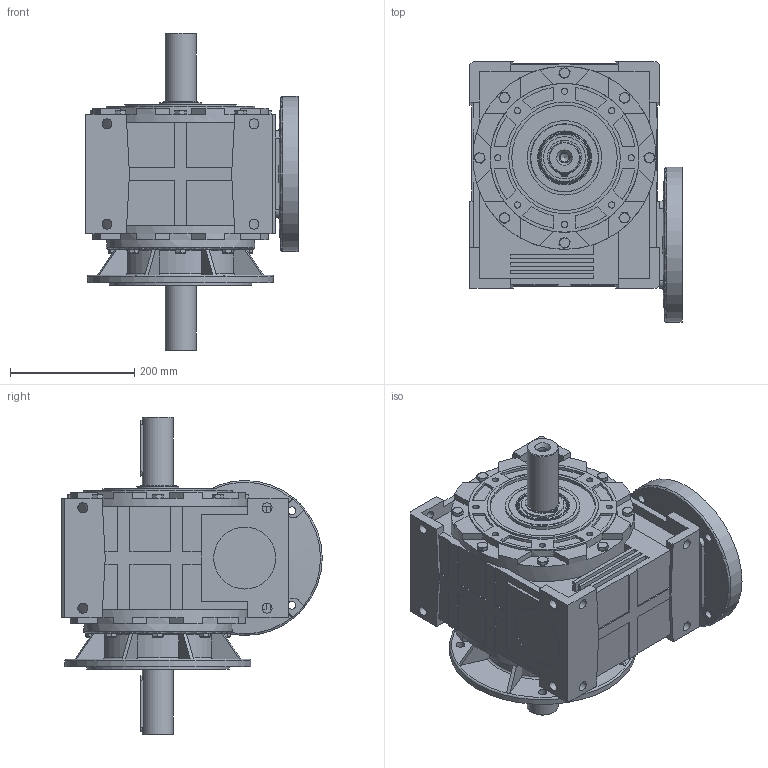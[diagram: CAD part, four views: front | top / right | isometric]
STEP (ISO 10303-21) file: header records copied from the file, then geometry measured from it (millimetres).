
FILE_DESCRIPTION (( 'STEP AP203' ), '1' );
FILE_NAME ('MR-140_100-112B5_K300_1_WD_1_3D.STEP', '2018-11-13T11:57:40', ( 'Biuro' ), ( 'Microsoft' ), 'SwSTEP 2.0', 'SolidWorks 2013', '' );
FILE_SCHEMA (( 'CONFIG_CONTROL_DESIGN' ));
Length unit declared in the file: millimetre
Products named in the file (1): MR-140_100-112B5_K300_1_WD_1_3D
Bounding box: 342 x 420 x 512 mm (x, y, z)
Volume: 22954971.8 mm3; surface area: 1134649.4 mm2
Topology: 1 solids, 31 shells, 1337 faces, 3331 edges, 2127 vertices
Faces by surface type: plane 780, cylinder 337, cone 145, torus 74, bspline 1
Full cylindrical faces by diameter (mm): 2.5 x2, 10 x24, 10.5 x8, 11 x8, 13 x4, 14 x6, 16 x32, 17 x2, 18 x4, 24 x4, 28 x1, 36 x1, 47 x1, 49.4 x1, 49.5 x1, 50 x5, 50.2 x1, 58 x1, 60 x1, 64.95 x1, 65 x2, 68 x1, 70.861 x1, 86 x1, 90 x2, 100 x1, 110 x2, 120 x2, 164 x1, 170 x2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
Entity records: 39930 total; most frequent: CARTESIAN_POINT 9193, DIRECTION 6444, ORIENTED_EDGE 5998, EDGE_CURVE 2999, AXIS2_PLACEMENT_3D 2408, VERTEX_POINT 2017, EDGE_LOOP 1718, LINE 1628
